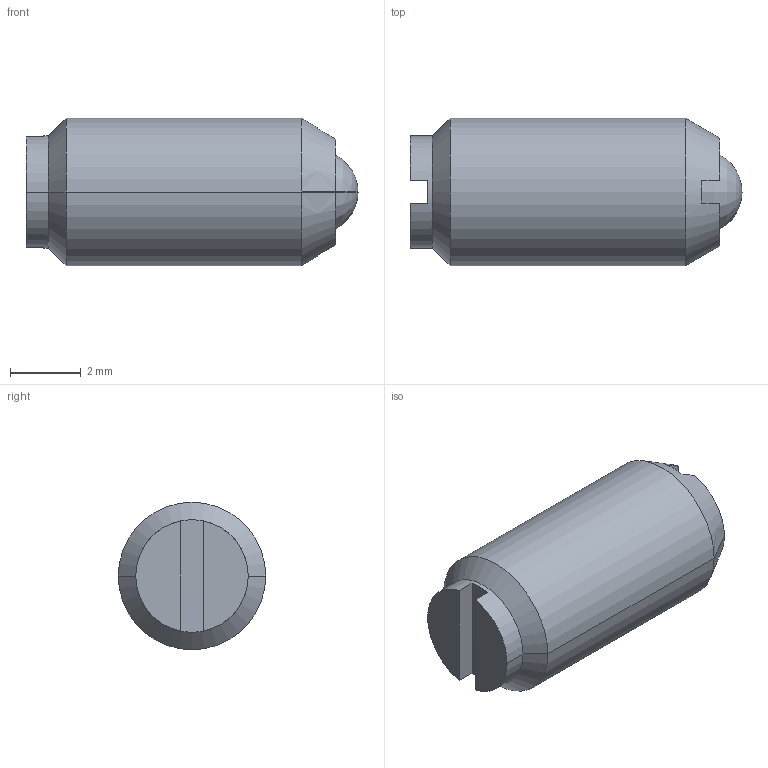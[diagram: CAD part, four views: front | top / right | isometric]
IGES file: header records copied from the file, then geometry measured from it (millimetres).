
Start section:  PTC IGES file: b50-3d.igs
Global section: file name: b50-3d.igs; native system: Pro/ENGINEER by Parametric Technology Corporation; preprocessor: 2002350; author: chant; organization: Unknown; date: 061026.155639; units: inch
Bounding box: 9.37 x 4.17 x 4.17 mm (x, y, z)
Surface area: 169 mm2 (no closed solid volume)
Topology: 0 solids, 0 shells, 26 faces, 185 edges, 233 vertices
Faces by surface type: revolution 15, bspline 11
